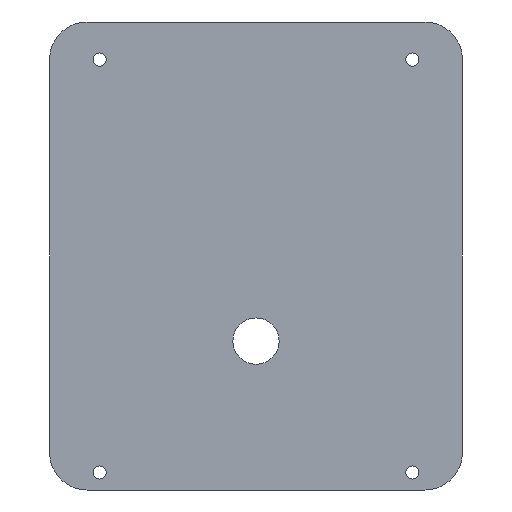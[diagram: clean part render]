
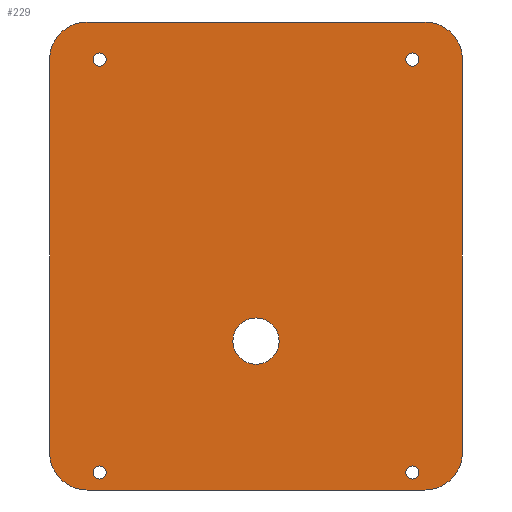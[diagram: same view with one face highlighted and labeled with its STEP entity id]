
A CAD part, front view. The second image highlights one B-rep face of the part: STEP entity #229.
In plain terms, the highlighted planar face has unit normal (0, -1, 0).
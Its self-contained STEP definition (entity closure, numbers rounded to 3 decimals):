
#22 = VERTEX_POINT('',#23);
#23 = CARTESIAN_POINT('',(118.,-260.2,330.));
#31 = EDGE_CURVE('',#22,#32,#34,.T.);
#32 = VERTEX_POINT('',#33);
#33 = CARTESIAN_POINT('',(226.,-260.2,330.));
#34 = LINE('',#35,#36);
#35 = CARTESIAN_POINT('',(118.,-260.2,330.));
#36 = VECTOR('',#37,1.);
#37 = DIRECTION('',(1.,0.,-0.));
#71 = VERTEX_POINT('',#72);
#72 = CARTESIAN_POINT('',(106.,-260.2,318.));
#78 = EDGE_CURVE('',#71,#22,#79,.T.);
#79 = CIRCLE('',#80,12.);
#80 = AXIS2_PLACEMENT_3D('',#81,#82,#83);
#81 = CARTESIAN_POINT('',(118.,-260.2,318.));
#82 = DIRECTION('',(0.,1.,0.));
#83 = DIRECTION('',(0.,-0.,1.));
#210 = EDGE_CURVE('',#32,#211,#213,.T.);
#211 = VERTEX_POINT('',#212);
#212 = CARTESIAN_POINT('',(238.,-260.2,318.));
#213 = CIRCLE('',#214,12.);
#214 = AXIS2_PLACEMENT_3D('',#215,#216,#217);
#215 = CARTESIAN_POINT('',(226.,-260.2,318.));
#216 = DIRECTION('',(0.,1.,0.));
#217 = DIRECTION('',(0.,-0.,1.));
#229 = ADVANCED_FACE('',(#230,#275,#286,#297,#308,#319),#330,.T.);
#230 = FACE_BOUND('',#231,.T.);
#231 = EDGE_LOOP('',(#232,#242,#251,#257,#258,#259,#260,#268));
#232 = ORIENTED_EDGE('',*,*,#233,.T.);
#233 = EDGE_CURVE('',#234,#236,#238,.T.);
#234 = VERTEX_POINT('',#235);
#235 = CARTESIAN_POINT('',(118.,-260.2,180.4));
#236 = VERTEX_POINT('',#237);
#237 = CARTESIAN_POINT('',(226.,-260.2,180.4));
#238 = LINE('',#239,#240);
#239 = CARTESIAN_POINT('',(118.,-260.2,180.4));
#240 = VECTOR('',#241,1.);
#241 = DIRECTION('',(1.,0.,-0.));
#242 = ORIENTED_EDGE('',*,*,#243,.F.);
#243 = EDGE_CURVE('',#244,#236,#246,.T.);
#244 = VERTEX_POINT('',#245);
#245 = CARTESIAN_POINT('',(238.,-260.2,192.4));
#246 = CIRCLE('',#247,12.);
#247 = AXIS2_PLACEMENT_3D('',#248,#249,#250);
#248 = CARTESIAN_POINT('',(226.,-260.2,192.4));
#249 = DIRECTION('',(0.,1.,0.));
#250 = DIRECTION('',(0.,-0.,1.));
#251 = ORIENTED_EDGE('',*,*,#252,.T.);
#252 = EDGE_CURVE('',#244,#211,#253,.T.);
#253 = LINE('',#254,#255);
#254 = CARTESIAN_POINT('',(238.,-260.2,192.4));
#255 = VECTOR('',#256,1.);
#256 = DIRECTION('',(0.,0.,1.));
#257 = ORIENTED_EDGE('',*,*,#210,.F.);
#258 = ORIENTED_EDGE('',*,*,#31,.F.);
#259 = ORIENTED_EDGE('',*,*,#78,.F.);
#260 = ORIENTED_EDGE('',*,*,#261,.F.);
#261 = EDGE_CURVE('',#262,#71,#264,.T.);
#262 = VERTEX_POINT('',#263);
#263 = CARTESIAN_POINT('',(106.,-260.2,192.4));
#264 = LINE('',#265,#266);
#265 = CARTESIAN_POINT('',(106.,-260.2,192.4));
#266 = VECTOR('',#267,1.);
#267 = DIRECTION('',(0.,0.,1.));
#268 = ORIENTED_EDGE('',*,*,#269,.F.);
#269 = EDGE_CURVE('',#234,#262,#270,.T.);
#270 = CIRCLE('',#271,12.);
#271 = AXIS2_PLACEMENT_3D('',#272,#273,#274);
#272 = CARTESIAN_POINT('',(118.,-260.2,192.4));
#273 = DIRECTION('',(0.,1.,0.));
#274 = DIRECTION('',(0.,-0.,1.));
#275 = FACE_BOUND('',#276,.T.);
#276 = EDGE_LOOP('',(#277));
#277 = ORIENTED_EDGE('',*,*,#278,.T.);
#278 = EDGE_CURVE('',#279,#279,#281,.T.);
#279 = VERTEX_POINT('',#280);
#280 = CARTESIAN_POINT('',(122.,-260.2,320.1));
#281 = CIRCLE('',#282,2.1);
#282 = AXIS2_PLACEMENT_3D('',#283,#284,#285);
#283 = CARTESIAN_POINT('',(122.,-260.2,318.));
#284 = DIRECTION('',(0.,1.,0.));
#285 = DIRECTION('',(0.,-0.,1.));
#286 = FACE_BOUND('',#287,.T.);
#287 = EDGE_LOOP('',(#288));
#288 = ORIENTED_EDGE('',*,*,#289,.T.);
#289 = EDGE_CURVE('',#290,#290,#292,.T.);
#290 = VERTEX_POINT('',#291);
#291 = CARTESIAN_POINT('',(122.,-260.2,188.1));
#292 = CIRCLE('',#293,2.1);
#293 = AXIS2_PLACEMENT_3D('',#294,#295,#296);
#294 = CARTESIAN_POINT('',(122.,-260.2,186.));
#295 = DIRECTION('',(0.,1.,0.));
#296 = DIRECTION('',(0.,-0.,1.));
#297 = FACE_BOUND('',#298,.T.);
#298 = EDGE_LOOP('',(#299));
#299 = ORIENTED_EDGE('',*,*,#300,.T.);
#300 = EDGE_CURVE('',#301,#301,#303,.T.);
#301 = VERTEX_POINT('',#302);
#302 = CARTESIAN_POINT('',(222.,-260.2,320.1));
#303 = CIRCLE('',#304,2.1);
#304 = AXIS2_PLACEMENT_3D('',#305,#306,#307);
#305 = CARTESIAN_POINT('',(222.,-260.2,318.));
#306 = DIRECTION('',(0.,1.,0.));
#307 = DIRECTION('',(0.,-0.,1.));
#308 = FACE_BOUND('',#309,.T.);
#309 = EDGE_LOOP('',(#310));
#310 = ORIENTED_EDGE('',*,*,#311,.T.);
#311 = EDGE_CURVE('',#312,#312,#314,.T.);
#312 = VERTEX_POINT('',#313);
#313 = CARTESIAN_POINT('',(172.,-260.2,235.4));
#314 = CIRCLE('',#315,7.4);
#315 = AXIS2_PLACEMENT_3D('',#316,#317,#318);
#316 = CARTESIAN_POINT('',(172.,-260.2,228.));
#317 = DIRECTION('',(0.,1.,0.));
#318 = DIRECTION('',(0.,-0.,1.));
#319 = FACE_BOUND('',#320,.T.);
#320 = EDGE_LOOP('',(#321));
#321 = ORIENTED_EDGE('',*,*,#322,.T.);
#322 = EDGE_CURVE('',#323,#323,#325,.T.);
#323 = VERTEX_POINT('',#324);
#324 = CARTESIAN_POINT('',(222.,-260.2,188.1));
#325 = CIRCLE('',#326,2.1);
#326 = AXIS2_PLACEMENT_3D('',#327,#328,#329);
#327 = CARTESIAN_POINT('',(222.,-260.2,186.));
#328 = DIRECTION('',(0.,1.,0.));
#329 = DIRECTION('',(0.,-0.,1.));
#330 = PLANE('',#331);
#331 = AXIS2_PLACEMENT_3D('',#332,#333,#334);
#332 = CARTESIAN_POINT('',(172.,-260.2,255.2));
#333 = DIRECTION('',(-0.,-1.,-0.));
#334 = DIRECTION('',(0.,0.,-1.));
